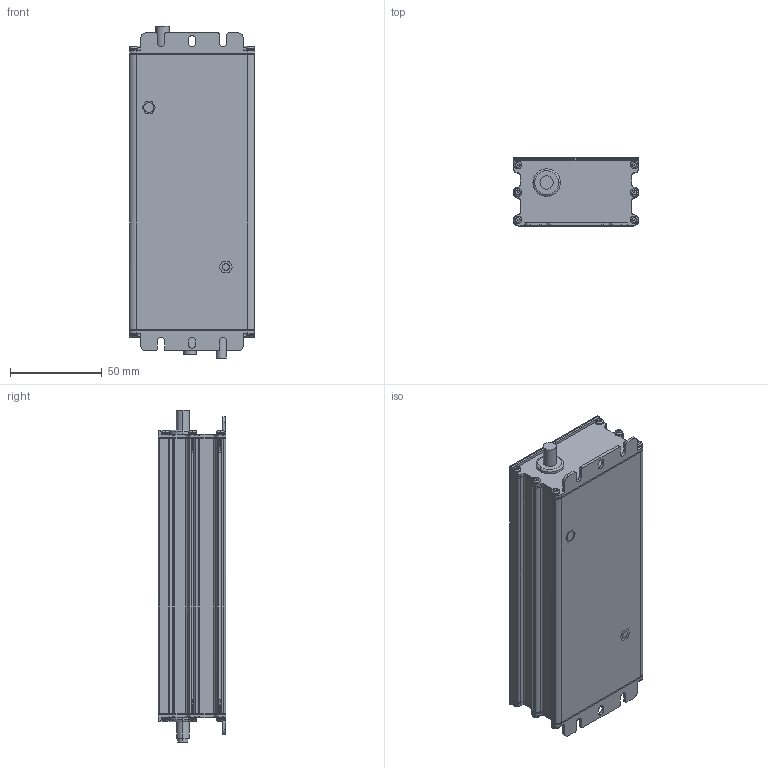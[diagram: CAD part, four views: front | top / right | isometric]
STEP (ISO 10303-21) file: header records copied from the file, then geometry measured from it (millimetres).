
FILE_DESCRIPTION((''),'2;1');
FILE_NAME('OT-150_ASM_ASM','2021-02-03T',('RI1130'),(''),'PRO/ENGINEER BY PARAMETRIC TECHNOLOGY CORPORATION, 2014320','PRO/ENGINEER BY PARAMETRIC TECHNOLOGY CORPORATION, 2014320','');
FILE_SCHEMA(('CONFIG_CONTROL_DESIGN'));
Length unit declared in the file: millimetre
Products named in the file (15): PRT0009; PRT0010; PRT0011; PRT0012; PRT0013; PRT0014; PRT0015; PRT0016; OT-150_1_ASM_ASM; PRT0017; PRT0018; OT-150-2_ASM_ASM; OT-150_0_ASM_ASM; ASM0014_ASM; OT-150_ASM_ASM
Assembly tree (27 placements, depth 5):
  OT-150_ASM_ASM
    ASM0014_ASM
      OT-150_0_ASM_ASM
        PRT0009
        PRT0010
        PRT0011
        PRT0012
        OT-150_1_ASM_ASM
          PRT0013
          PRT0014
          PRT0015
          PRT0016  x2
        OT-150-2_ASM_ASM
          PRT0017  x12
          PRT0018  x2
Bounding box: 68 x 37 x 181.2 mm (x, y, z)
Volume: 75039 mm3; surface area: 96201 mm2
Topology: 23 solids, 23 shells, 1102 faces, 3073 edges, 2058 vertices
Faces by surface type: cylinder 521, plane 385, bspline 96, torus 60, extrusion 40
Entity records: 19794 total; most frequent: CARTESIAN_POINT 5587, DIRECTION 3014, ORIENTED_EDGE 2898, EDGE_CURVE 1449, AXIS2_PLACEMENT_3D 1112, VERTEX_POINT 979, VECTOR 790, LINE 758
